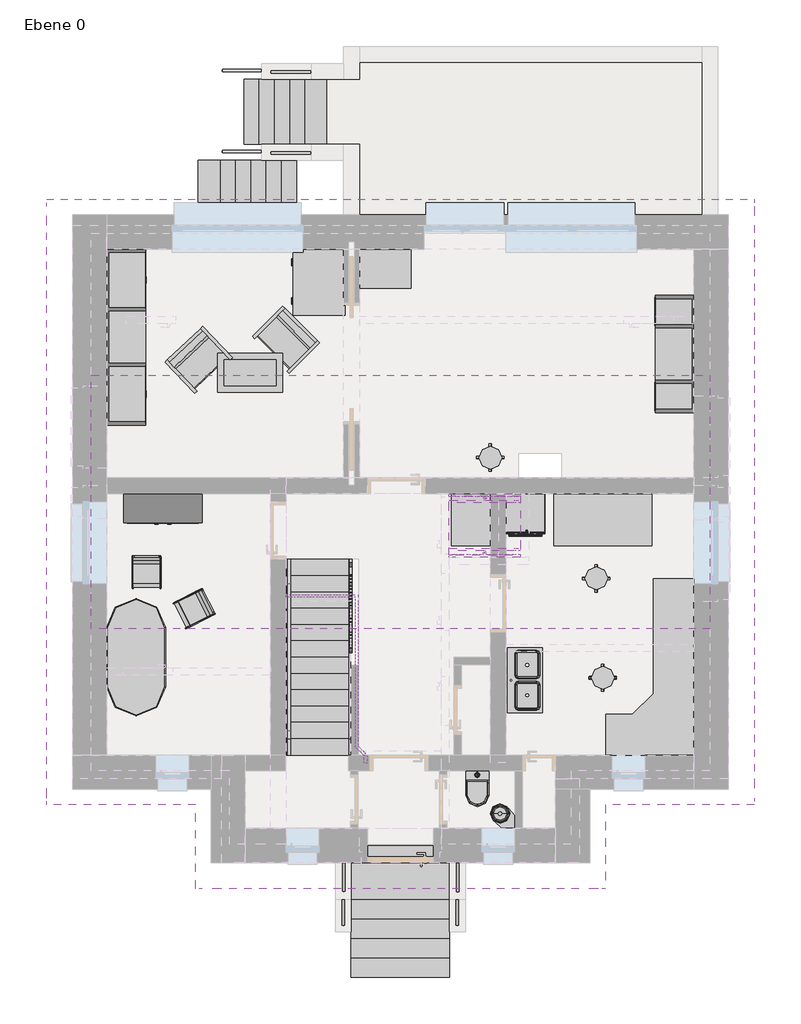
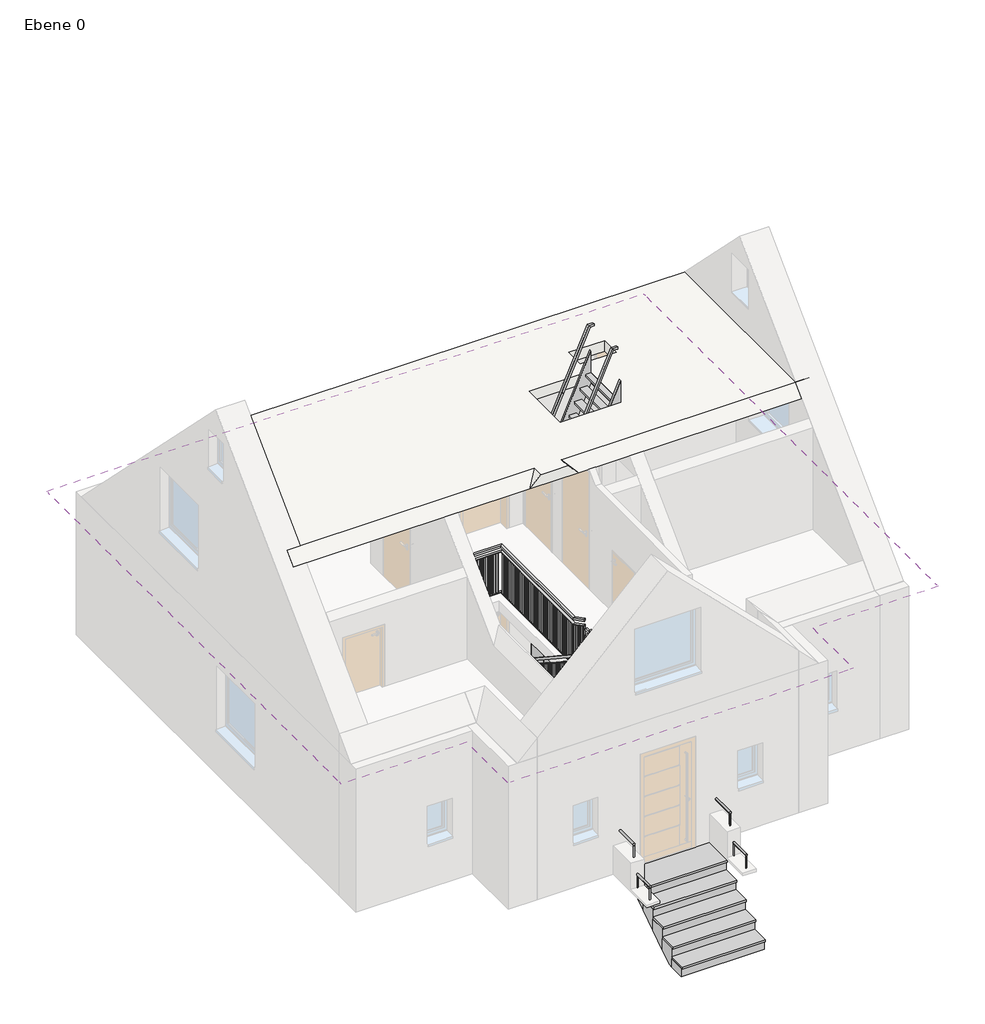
# One storey, part 3 of 3: 17 furniture elements, 16 railings, 5 stair flights, 4 members, 3 flow terminals, 2 proxies, 2 slabs, 1 roof.
"""IFC4 building model written with IfcOpenShell, lengths in millimetres."""

from ifc_helpers import new_model, si_unit, frame, origin, place, context, project, spatial, polyline, outline, extrude, faceted_brep, transform, mapped, element, save
from components import electrical_equipment_04802fdb, electrical_equipment_621d5f77, flow_terminal_1000_x_535_82328010, flow_terminal_35_x_55cm_6441f3d0, waschbecken_03_waschbecken_093a886d, furniture_1000_x_600_x_450_2671d195, furniture_1000_x_760_x_760_02e18f98, furniture_800_x_600_x_800_ba27f6a6, schrank_09_1200_x_450_x_2200_a26f84f2, schrank_12_1800_x_600_x_1800_5341ef42, schrank_12_2700_x_600_x_2100_568bd233, sofa_05_b_800_2b4523ea, stuhl_04_typ1_6c77dc19, tisch_08_oval_1800_x_900_glas_ae678d82, tisch_17_1500_x_800_x_750_a301e799, typ1_ea9e3636, typ1_24384e5f, railing_ba4ef4f0, railing_844731f6, railing_05958358, railing_5f183d00, railing_986e0a8e, railing_a572a345, railing_46543788, railing_ffa2e5ba, railing_02694adf, railing_c6eb6142, railing_c633e56d, railing_068a3bbe, handlauf_holz_37a11ede, handlauf_holz_fd729e07, handlauf_holz_bf88dba0, handlauf_holz_f6a84104, stair_flight_0ae1a87a, stair_flight_21483602

model = new_model("IFC4")

# Units and contexts
model_context = context("Model", 3, world=origin())
ifc_project = project(units=[si_unit("LENGTHUNIT", "METRE", prefix="MILLI")], contexts=[model_context])

# Site, building, storey
site = spatial("IfcSite", under=ifc_project)
building = spatial("IfcBuilding", under=site)
storey = spatial("IfcBuildingStorey", under=building, Name="Ebene 0", Elevation=1000.0)

# Proxies
placement = place(None, origin())
electrical_equipment_shape = electrical_equipment_04802fdb(model_context)
element("IfcBuildingElementProxy", 1, Name="Backofen-Herdplatte-Kombi : 850  x 597  x 597", ObjectType="Backofen-Herdplatte-Kombi : 850  x 597  x 597", at=placement, inside=storey, context=model_context, shape_type="MappedRepresentation", body=[
    mapped(electrical_equipment_shape, transform((4658.6733882, 5200.0, 1100.0), x_axis=(1.0, 0.0, 0.0), y_axis=(0.0, 1.0, 0.0), z_axis=(0.0, 0.0, 1.0))),
])
electrical_equipment_2_shape = electrical_equipment_621d5f77(model_context)
element("IfcBuildingElementProxy", 2, Name="Glas-Kochfläche-6fach eingefasst-Kante : 576  x 516", ObjectType="Glas-Kochfläche-6fach eingefasst-Kante : 576  x 516", at=placement, inside=storey, context=model_context, shape_type="MappedRepresentation", body=[
    mapped(electrical_equipment_2_shape, transform((4663.5, 5201.5, 1950.0), x_axis=(1.0, 0.0, 0.0), y_axis=(0.0, 1.0, 0.0), z_axis=(0.0, 0.0, 1.0))),
])

# Flow terminals
flow_terminal_1000_x_535_shape = flow_terminal_1000_x_535_82328010(model_context)
element("IfcFlowTerminal", 3, ObjectType="Spülbecken Küche-Doppelt : 1000 x 535", at=placement, inside=storey, context=model_context, shape_type="MappedRepresentation", body=[
    mapped(flow_terminal_1000_x_535_shape, transform((4655.5454011, 2622.4107594, 1800.0), x_axis=(0.0, 1.0, 0.0), y_axis=(-1.0, 0.0, 0.0), z_axis=(0.0, 0.0, 1.0))),
])
flow_terminal_35_x_55cm_shape = flow_terminal_35_x_55cm_6441f3d0(model_context)
element("IfcFlowTerminal", 4, ObjectType="WC AP-Druckspüler : 35 x 55cm", at=placement, inside=storey, context=model_context, shape_type="MappedRepresentation", body=[
    mapped(flow_terminal_35_x_55cm_shape, transform((3925.0, 1250.0, 1100.0), x_axis=(1.0, 0.0, 0.0), y_axis=(0.0, 1.0, 0.0), z_axis=(0.0, 0.0, 1.0))),
])
waschbecken_03_waschbecken_shape = waschbecken_03_waschbecken_093a886d(model_context)
element("IfcFlowTerminal", 5, ObjectType="Waschbecken 03 : Waschbecken", at=placement, inside=storey, context=model_context, shape_type="MappedRepresentation", body=[
    mapped(waschbecken_03_waschbecken_shape, transform((4500.0, 376.4966705, 1100.0), x_axis=(-0.9997802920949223, -0.02096109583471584, 0.0), y_axis=(0.02096109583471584, -0.9997802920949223, 0.0), z_axis=(0.0, 0.0, 1.0))),
])

# Furniture
furniture_1000_x_600_x_450_shape = furniture_1000_x_600_x_450_2671d195(model_context)
element("IfcFurniture", 6, ObjectType="Tisch-05 Glasausschnitt : 1000 x 600 x 450", at=placement, inside=storey, context=model_context, shape_type="MappedRepresentation", body=[
    mapped(furniture_1000_x_600_x_450_shape, transform((421.7342333, 7254.7889222, 1000.0), x_axis=(1.0, 0.0, 0.0), y_axis=(0.0, 1.0, 0.0), z_axis=(0.0, 0.0, 1.0))),
])
furniture_1000_x_760_x_760_shape = furniture_1000_x_760_x_760_02e18f98(model_context)
element("IfcFurniture", 7, ObjectType="Schreibtisch-06 : 1000 x 760 x 760", at=placement, inside=storey, context=model_context, shape_type="MappedRepresentation", body=[
    mapped(furniture_1000_x_760_x_760_shape, transform((1114.0, 9512.0, 1000.0), x_axis=(0.0, -1.0, 0.0), y_axis=(1.0, 0.0, 0.0), z_axis=(0.0, 0.0, 1.0))),
])
furniture_800_x_600_x_800_shape = furniture_800_x_600_x_800_ba27f6a6(model_context)
element("IfcFurniture", 8, ObjectType="Kommode-01 : 800 x 600 x 800", at=placement, inside=storey, context=model_context, shape_type="MappedRepresentation", body=[
    mapped(furniture_800_x_600_x_800_shape, transform((3725.0, 5100.0, 1000.0), x_axis=(0.0, -1.0, 0.0), y_axis=(1.0, 0.0, 0.0), z_axis=(0.0, 0.0, 1.0))),
])
element("IfcFurniture", 9, ObjectType="Kommode-01 : 800 x 600 x 800", at=placement, inside=storey, context=model_context, shape_type="MappedRepresentation", body=[
    mapped(furniture_800_x_600_x_800_shape, transform((2505.0, 8850.0, 1000.0), x_axis=(1.0, 0.0, 0.0), y_axis=(0.0, 1.0, 0.0), z_axis=(0.0, 0.0, 1.0))),
])
schrank_09_1200_x_450_x_2200_shape = schrank_09_1200_x_450_x_2200_a26f84f2(model_context)
element("IfcFurniture", 10, ObjectType="Schrank-09 : 1200 x 450 x 2200", at=placement, inside=storey, context=model_context, shape_type="MappedRepresentation", body=[
    mapped(schrank_09_1200_x_450_x_2200_shape, transform((-630.8067402, 5638.1629541, 1000.0), x_axis=(1.0, 0.0, 0.0), y_axis=(0.0, 1.0, 0.0), z_axis=(0.0, 0.0, 1.0))),
])
schrank_12_1800_x_600_x_1800_shape = schrank_12_1800_x_600_x_1800_5341ef42(model_context)
element("IfcFurniture", 11, ObjectType="Schrank-12 : 1800 x 600 x 1800", at=placement, inside=storey, context=model_context, shape_type="MappedRepresentation", body=[
    mapped(schrank_12_1800_x_600_x_1800_shape, transform((7356.4, 7640.0, 1000.0), x_axis=(0.0, -1.0, 0.0), y_axis=(1.0, 0.0, 0.0), z_axis=(0.0, 0.0, 1.0))),
])
schrank_12_2700_x_600_x_2100_shape = schrank_12_2700_x_600_x_2100_568bd233(model_context)
element("IfcFurniture", 12, ObjectType="Schrank-12 : 2700 x 600 x 2100", at=placement, inside=storey, context=model_context, shape_type="MappedRepresentation", body=[
    mapped(schrank_12_2700_x_600_x_2100_shape, transform((-1866.4, 7900.0, 1000.0), x_axis=(0.0, 1.0, 0.0), y_axis=(-1.0, 0.0, 0.0), z_axis=(0.0, 0.0, 1.0))),
])
sofa_05_b_800_shape = sofa_05_b_800_2b4523ea(model_context)
element("IfcFurniture", 13, ObjectType="Sofa-05 : B 800", at=placement, inside=storey, context=model_context, shape_type="MappedRepresentation", body=[
    mapped(sofa_05_b_800_shape, transform((-300.7139071, 7395.4558069, 1000.0), x_axis=(0.7265975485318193, 0.6870633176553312, 0.0), y_axis=(-0.6870633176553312, 0.7265975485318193, 0.0), z_axis=(0.0, 0.0, 1.0))),
])
element("IfcFurniture", 14, ObjectType="Sofa-05 : B 800", at=placement, inside=storey, context=model_context, shape_type="MappedRepresentation", body=[
    mapped(sofa_05_b_800_shape, transform((836.893994, 7805.7563155, 1000.0), x_axis=(0.7071067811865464, -0.7071067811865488, 0.0), y_axis=(0.7071067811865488, 0.7071067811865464, 0.0), z_axis=(0.0, 0.0, 1.0))),
])
stuhl_04_typ1_shape = stuhl_04_typ1_6c77dc19(model_context)
element("IfcFurniture", 15, ObjectType="Stuhl-04 : Typ1", at=placement, inside=storey, context=model_context, shape_type="MappedRepresentation", body=[
    mapped(stuhl_04_typ1_shape, transform((-797.8947, 4524.7408621, 1000.0), x_axis=(1.0, 0.0, 0.0), y_axis=(0.0, 1.0, 0.0), z_axis=(0.0, 0.0, 1.0))),
])
element("IfcFurniture", 16, ObjectType="Stuhl-04 : Typ1", at=placement, inside=storey, context=model_context, shape_type="MappedRepresentation", body=[
    mapped(stuhl_04_typ1_shape, transform((-57.5438469, 3524.477641, 1000.0), x_axis=(0.4470333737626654, -0.8945172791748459, 0.0), y_axis=(0.8945172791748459, 0.4470333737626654, 0.0), z_axis=(0.0, 0.0, 1.0))),
])
tisch_08_oval_1800_x_900_glas_shape = tisch_08_oval_1800_x_900_glas_ae678d82(model_context)
element("IfcFurniture", 17, ObjectType="Tisch-08 oval : 1800 x 900 Glas", at=placement, inside=storey, context=model_context, shape_type="MappedRepresentation", body=[
    mapped(tisch_08_oval_1800_x_900_glas_shape, transform((-1668.0983607, 3391.8196721, 1000.0), x_axis=(0.0, 1.0, 0.0), y_axis=(-1.0, 0.0, 0.0), z_axis=(0.0, 0.0, 1.0))),
])
tisch_17_1500_x_800_x_750_shape = tisch_17_1500_x_800_x_750_a301e799(model_context)
element("IfcFurniture", 18, ObjectType="Tisch-17 : 1500 x 800 x 750", at=placement, inside=storey, context=model_context, shape_type="MappedRepresentation", body=[
    mapped(tisch_17_1500_x_800_x_750_shape, transform((5834.682456, 5060.8700593, 1100.0), x_axis=(1.0, 0.0, 0.0), y_axis=(0.0, 1.0, 0.0), z_axis=(0.0, 0.0, 1.0))),
])
typ1_shape = typ1_ea9e3636(model_context)
element("IfcFurniture", 19, ObjectType="Küchenzeile-05 Kombination : Typ1", at=placement, inside=storey, context=model_context, shape_type="MappedRepresentation", body=[
    mapped(typ1_shape, transform((8240.9255592, 3558.8064056, 1100.0), x_axis=(0.0, -1.0, 0.0), y_axis=(1.0, 0.0, 0.0), z_axis=(0.0, 0.0, 1.0))),
])
typ1_2_shape = typ1_24384e5f(model_context)
element("IfcFurniture", 20, ObjectType="Hocker-04 : Typ1", at=placement, inside=storey, context=model_context, shape_type="MappedRepresentation", body=[
    mapped(typ1_2_shape, transform((5750.0, 4200.0, 1100.0), x_axis=(1.0, 0.0, 0.0), y_axis=(0.0, 1.0, 0.0), z_axis=(0.0, 0.0, 1.0))),
])
element("IfcFurniture", 21, ObjectType="Hocker-04 : Typ1", at=placement, inside=storey, context=model_context, shape_type="MappedRepresentation", body=[
    mapped(typ1_2_shape, transform((5850.0, 2675.0, 1100.0), x_axis=(1.0, 0.0, 0.0), y_axis=(0.0, 1.0, 0.0), z_axis=(0.0, 0.0, 1.0))),
])
element("IfcFurniture", 22, ObjectType="Hocker-04 : Typ1", at=placement, inside=storey, context=model_context, shape_type="MappedRepresentation", body=[
    mapped(typ1_2_shape, transform((4125.0, 6050.868232, 1000.0), x_axis=(1.0, 0.0, 0.0), y_axis=(0.0, 1.0, 0.0), z_axis=(0.0, 0.0, 1.0))),
])

# Members
element("IfcMember", 23, ObjectType="Holz 40 x 260", at=placement, inside=storey, context=model_context, shape_type="SweptSolid", body=[
    extrude(outline(polyline([(4490.0, -1001.5849467), (4490.0, -1200.0), (4320.9042035, -1200.0), (1490.0, 875.9964159), (1490.0, 1198.4150533), (4490.0, -1001.5849467)])), frame((1980.0, 0.0, 0.0), z_axis=(1.0, 0.0, 0.0), x_axis=(0.0, 1.0, 0.0)), (0.0, 0.0, 1.0), 40.0),
])
element("IfcMember", 24, ObjectType="Holz 40 x 260", at=placement, inside=storey, context=model_context, shape_type="SweptSolid", body=[
    extrude(outline(polyline([(4490.0, -1001.5849467), (4490.0, -1200.0), (4320.9042035, -1200.0), (1490.0, 875.9964159), (1490.0, 1198.4150533), (4490.0, -1001.5849467)])), frame((940.0, 0.0, 0.0), z_axis=(1.0, 0.0, 0.0), x_axis=(0.0, 1.0, 0.0)), (0.0, 0.0, 1.0), 40.0),
])
element("IfcMember", 25, ObjectType="Holz 40 x 260", at=placement, inside=storey, context=model_context, shape_type="SweptSolid", body=[
    extrude(outline(polyline([(4163.2481927, 3490.0), (3750.0, 3490.0), (3750.0, 3592.2260011), (6017.6681792, 4590.0), (6663.2481927, 4590.0), (4163.2481927, 3490.0)])), frame((0.0, 5460.0, 0.0), z_axis=(0.0, 1.0, 0.0), x_axis=(0.0, 0.0, 1.0)), (0.0, 0.0, 1.0), 40.0),
])
element("IfcMember", 26, ObjectType="Holz 40 x 260", at=placement, inside=storey, context=model_context, shape_type="SweptSolid", body=[
    extrude(outline(polyline([(4163.2481927, 3490.0), (3750.0, 3490.0), (3750.0, 3592.2260011), (6017.6681792, 4590.0), (6663.2481927, 4590.0), (4163.2481927, 3490.0)])), frame((0.0, 4520.0, 0.0), z_axis=(0.0, 1.0, 0.0), x_axis=(0.0, 0.0, 1.0)), (0.0, 0.0, 1.0), 40.0),
])

# Railings
railing_shape = railing_ba4ef4f0(model_context)
element("IfcRailing", 27, ObjectType="Vertikale Stäbe mit Handlauf", at=placement, inside=storey, context=model_context, shape_type="MappedRepresentation", body=[
    mapped(railing_shape, transform((0.0, 0.0, 0.0), x_axis=(1.0, 0.0, 0.0), y_axis=(0.0, 1.0, 0.0), z_axis=(0.0, 0.0, 1.0))),
])
railing_2_shape = railing_844731f6(model_context)
element("IfcRailing", 28, ObjectType="Vertikale Stäbe", at=placement, inside=storey, context=model_context, shape_type="MappedRepresentation", body=[
    mapped(railing_2_shape, transform((0.0, 0.0, 0.0), x_axis=(1.0, 0.0, 0.0), y_axis=(0.0, 1.0, 0.0), z_axis=(0.0, 0.0, 1.0))),
])
railing_3_shape = railing_05958358(model_context)
element("IfcRailing", 29, ObjectType="Geländer-1", at=placement, inside=storey, context=model_context, shape_type="MappedRepresentation", body=[
    mapped(railing_3_shape, transform((0.0, 0.0, 0.0), x_axis=(1.0, 0.0, 0.0), y_axis=(0.0, 1.0, 0.0), z_axis=(0.0, 0.0, 1.0))),
])
railing_4_shape = railing_5f183d00(model_context)
element("IfcRailing", 30, ObjectType="Geländer-1", at=placement, inside=storey, context=model_context, shape_type="MappedRepresentation", body=[
    mapped(railing_4_shape, transform((0.0, 0.0, 0.0), x_axis=(1.0, 0.0, 0.0), y_axis=(0.0, 1.0, 0.0), z_axis=(0.0, 0.0, 1.0))),
])
railing_5_shape = railing_986e0a8e(model_context)
element("IfcRailing", 31, ObjectType="Geländer-1", at=placement, inside=storey, context=model_context, shape_type="MappedRepresentation", body=[
    mapped(railing_5_shape, transform((0.0, 0.0, 0.0), x_axis=(1.0, 0.0, 0.0), y_axis=(0.0, 1.0, 0.0), z_axis=(0.0, 0.0, 1.0))),
])
railing_6_shape = railing_a572a345(model_context)
element("IfcRailing", 32, ObjectType="Geländer-1", at=placement, inside=storey, context=model_context, shape_type="MappedRepresentation", body=[
    mapped(railing_6_shape, transform((0.0, 0.0, 0.0), x_axis=(1.0, 0.0, 0.0), y_axis=(0.0, 1.0, 0.0), z_axis=(0.0, 0.0, 1.0))),
])
railing_7_shape = railing_46543788(model_context)
element("IfcRailing", 33, ObjectType="Vertikale Stäbe mit Handlauf", at=placement, inside=storey, context=model_context, shape_type="MappedRepresentation", body=[
    mapped(railing_7_shape, transform((0.0, 0.0, 0.0), x_axis=(1.0, 0.0, 0.0), y_axis=(0.0, 1.0, 0.0), z_axis=(0.0, 0.0, 1.0))),
])
railing_8_shape = railing_ffa2e5ba(model_context)
element("IfcRailing", 34, ObjectType="Vertikale Stäbe mit Handlauf", at=placement, inside=storey, context=model_context, shape_type="MappedRepresentation", body=[
    mapped(railing_8_shape, transform((0.0, 0.0, 0.0), x_axis=(1.0, 0.0, 0.0), y_axis=(0.0, 1.0, 0.0), z_axis=(0.0, 0.0, 1.0))),
])
railing_9_shape = railing_02694adf(model_context)
element("IfcRailing", 35, ObjectType="Geländer-1", at=placement, inside=storey, context=model_context, shape_type="MappedRepresentation", body=[
    mapped(railing_9_shape, transform((0.0, 0.0, 0.0), x_axis=(1.0, 0.0, 0.0), y_axis=(0.0, 1.0, 0.0), z_axis=(0.0, 0.0, 1.0))),
])
railing_10_shape = railing_c6eb6142(model_context)
element("IfcRailing", 36, ObjectType="Geländer-1", at=placement, inside=storey, context=model_context, shape_type="MappedRepresentation", body=[
    mapped(railing_10_shape, transform((0.0, 0.0, 0.0), x_axis=(1.0, 0.0, 0.0), y_axis=(0.0, 1.0, 0.0), z_axis=(0.0, 0.0, 1.0))),
])
railing_11_shape = railing_c633e56d(model_context)
element("IfcRailing", 37, ObjectType="Geländer-1", at=placement, inside=storey, context=model_context, shape_type="MappedRepresentation", body=[
    mapped(railing_11_shape, transform((0.0, 0.0, 0.0), x_axis=(1.0, 0.0, 0.0), y_axis=(0.0, 1.0, 0.0), z_axis=(0.0, 0.0, 1.0))),
])
railing_12_shape = railing_068a3bbe(model_context)
element("IfcRailing", 38, ObjectType="Geländer-1", at=placement, inside=storey, context=model_context, shape_type="MappedRepresentation", body=[
    mapped(railing_12_shape, transform((0.0, 0.0, 0.0), x_axis=(1.0, 0.0, 0.0), y_axis=(0.0, 1.0, 0.0), z_axis=(0.0, 0.0, 1.0))),
])
handlauf_holz_shape = handlauf_holz_37a11ede(model_context)
element("IfcRailing", 39, ObjectType="Handlauf Holz", at=placement, inside=storey, context=model_context, shape_type="MappedRepresentation", body=[
    mapped(handlauf_holz_shape, transform((0.0, 0.0, 0.0), x_axis=(1.0, 0.0, 0.0), y_axis=(0.0, 1.0, 0.0), z_axis=(0.0, 0.0, 1.0))),
])
handlauf_holz_2_shape = handlauf_holz_fd729e07(model_context)
element("IfcRailing", 40, ObjectType="Handlauf Holz", at=placement, inside=storey, context=model_context, shape_type="MappedRepresentation", body=[
    mapped(handlauf_holz_2_shape, transform((0.0, 0.0, 0.0), x_axis=(1.0, 0.0, 0.0), y_axis=(0.0, 1.0, 0.0), z_axis=(0.0, 0.0, 1.0))),
])
handlauf_holz_3_shape = handlauf_holz_bf88dba0(model_context)
element("IfcRailing", 41, ObjectType="Handlauf Holz", at=placement, inside=storey, context=model_context, shape_type="MappedRepresentation", body=[
    mapped(handlauf_holz_3_shape, transform((0.0, 0.0, 0.0), x_axis=(1.0, 0.0, 0.0), y_axis=(0.0, 1.0, 0.0), z_axis=(0.0, 0.0, 1.0))),
])
handlauf_holz_4_shape = handlauf_holz_f6a84104(model_context)
element("IfcRailing", 42, ObjectType="Handlauf Holz", at=placement, inside=storey, context=model_context, shape_type="MappedRepresentation", body=[
    mapped(handlauf_holz_4_shape, transform((0.0, 0.0, 0.0), x_axis=(1.0, 0.0, 0.0), y_axis=(0.0, 1.0, 0.0), z_axis=(0.0, 0.0, 1.0))),
])

# Roof
element("IfcRoof", 43, ObjectType="Ziegeldach 360", at=placement, inside=storey, context=model_context, shape_type="Brep", body=[
    faceted_brep([(3.0508653, 1128.0508653, 3753.0508653), (-2685.0, 1128.0508653, 3753.0508653), (-2685.0, 5370.0, 7995.0), (8175.0, 5370.0, 7995.0), (8175.0, 1128.0508653, 3753.0508653), (5486.9491347, 1128.0508653, 3753.0508653), (3190.0, 3425.0, 6050.0), (2990.0, 3625.0, 6250.0), (2745.0, 3870.0, 6495.0), (2500.0, 3625.0, 6250.0), (2300.0, 3425.0, 6050.0), (960.0, 2085.0, 4710.0), (750.0, 1875.0, 4500.0), (2745.0, 365.0, 6495.0), (2745.0, -160.0, 6495.0), (2745.0, -560.0, 6495.0), (3.0508653, -560.0, 3753.0508653), (5486.9491347, -560.0, 3753.0508653), (-2685.0, 9611.9491347, 3753.0508653), (8175.0, 9611.9491347, 3753.0508653), (5215.0, 5751.2341615, 7613.7658385), (5215.0, 6111.2341615, 7253.7658385), (4565.0, 6111.2341615, 7253.7658385), (4565.0, 5751.2341615, 7613.7658385), (-400.0, 725.0, 3859.1168825), (2745.0, 3870.0, 7004.1168825), (5890.0, 725.0, 3859.1168825), (8175.0, 725.0, 3859.1168825), (8175.0, 5370.0, 8504.1168825), (-2685.0, 5370.0, 8504.1168825), (-2685.0, 725.0, 3859.1168825), (-400.0, -560.0, 3859.1168825), (2745.0, -560.0, 7004.1168825), (5890.0, -560.0, 3859.1168825), (8175.0, 10015.0, 3859.1168825), (-2685.0, 10015.0, 3859.1168825), (5215.0, 6111.2341615, 7762.8827209), (5215.0, 5751.2341615, 8122.8827209), (4565.0, 5751.2341615, 8122.8827209), (4565.0, 6111.2341615, 7762.8827209), (-293.9339828, -560.0, 3753.0508653), (-293.9339828, 831.0660172, 3753.0508653), (-2685.0, 831.0660172, 3753.0508653), (8175.0, 831.0660172, 3753.0508653), (5783.9339828, 831.0660172, 3753.0508653), (5783.9339828, -560.0, 3753.0508653), (-2685.0, 9908.9339828, 3753.0508653), (8175.0, 9908.9339828, 3753.0508653)], [[[0, 1, 2, 3, 4, 5, 6, 7, 8, 9, 10, 11, 12]], [[0, 12, 11, 10, 9, 8, 13, 14, 15, 16]], [[8, 7, 6, 5, 17, 15, 14, 13]], [[3, 2, 18, 19], [20, 21, 22, 23]], [[24, 25, 26, 27, 28, 29, 30]], [[25, 24, 31, 32]], [[26, 25, 32, 33]], [[29, 28, 34, 35], [36, 37, 38, 39]], [[1, 0, 16, 40, 41, 42]], [[5, 4, 43, 44, 45, 17]], [[19, 18, 46, 47]], [[2, 1, 42, 30, 29, 35, 46, 18]], [[16, 15, 17, 45, 33, 32, 31, 40]], [[4, 3, 19, 47, 34, 28, 27, 43]], [[24, 30, 42, 41]], [[31, 24, 41, 40]], [[26, 33, 45, 44]], [[27, 26, 44, 43]], [[35, 34, 47, 46]], [[20, 37, 36, 21]], [[21, 36, 39, 22]], [[22, 39, 38, 23]], [[37, 20, 23, 38]]]),
])

# Slabs
element("IfcSlab", 44, ObjectType="STB 200", at=placement, inside=storey, context=model_context, shape_type="Brep", body=[
    faceted_brep([(1995.0, 12235.0, 800.0), (7375.0, 12235.0, 800.0), (7495.0, 12235.0, 800.0), (7495.0, 9775.0, 800.0), (7495.0, 9615.0, 800.0), (1995.0, 9615.0, 800.0), (1995.0, 9775.0, 800.0), (1995.0, 10735.0, 800.0), (1875.0, 10735.0, 800.0), (1620.0, 10735.0, 800.0), (1620.0, 11855.0, 800.0), (1995.0, 11855.0, 800.0), (7495.0, 12235.0, 1000.0), (7375.0, 12235.0, 1000.0), (1995.0, 12235.0, 1000.0), (1995.0, 11855.0, 1000.0), (1875.0, 11855.0, 1000.0), (1620.0, 11855.0, 1000.0), (1620.0, 10855.0, 1000.0), (1620.0, 10735.0, 1000.0), (1875.0, 10735.0, 1000.0), (1995.0, 10735.0, 1000.0), (1995.0, 9775.0, 1000.0), (1995.0, 9615.0, 1000.0), (7495.0, 9615.0, 1000.0), (7495.0, 9775.0, 1000.0), (1620.0, 11855.0, 960.0), (1620.0, 10855.0, 960.0), (1620.0, 10845.0, 960.0), (1620.0, 10845.0, 850.0), (1620.0, 11855.0, 850.0), (1630.0, 11855.0, 850.0), (1630.0, 11855.0, 960.0), (1630.0, 10845.0, 960.0), (1630.0, 10845.0, 850.0)], [[[0, 1, 2, 3, 4, 5, 6, 7, 8, 9, 10, 11]], [[12, 13, 14, 15, 16, 17, 18, 19, 20, 21, 22, 23, 24, 25]], [[2, 1, 0, 14, 13, 12]], [[4, 3, 2, 12, 25, 24]], [[5, 4, 24, 23]], [[7, 6, 5, 23, 22, 21]], [[9, 8, 7, 21, 20, 19]], [[10, 9, 19, 18, 17, 26, 27, 28, 29, 30]], [[11, 10, 30, 31, 32, 26, 17, 16, 15]], [[0, 11, 15, 14]], [[32, 33, 28, 27, 26]], [[29, 34, 31, 30]], [[33, 34, 29, 28]], [[34, 33, 32, 31]]]),
])
element("IfcSlab", 45, ObjectType="STB 200", at=placement, inside=storey, context=model_context, shape_type="Brep", body=[
    faceted_brep([(7490.0, 7315.0, 6050.0), (7490.0, 3425.0, 6050.0), (3190.0, 3425.0, 6050.0), (2300.0, 3425.0, 6050.0), (-1760.0, 3425.0, 6050.0), (-2000.0, 3425.0, 6050.0), (-2000.0, 7315.0, 6050.0), (-1760.0, 7315.0, 6050.0), (3490.0, 4520.0, 6050.0), (4590.0, 4520.0, 6050.0), (4590.0, 5500.0, 6050.0), (3490.0, 5500.0, 6050.0), (5215.0, 5751.2341615, 6050.0), (5215.0, 6111.2341615, 6050.0), (4565.0, 6111.2341615, 6050.0), (4565.0, 5751.2341615, 6050.0), (-2000.0, 7115.0, 6250.0), (-2000.0, 3625.0, 6250.0), (-1760.0, 3625.0, 6250.0), (2500.0, 3625.0, 6250.0), (2500.0, 3425.0, 6250.0), (2990.0, 3425.0, 6250.0), (2990.0, 3625.0, 6250.0), (7490.0, 3625.0, 6250.0), (7490.0, 7115.0, 6250.0), (-1760.0, 7115.0, 6250.0), (4590.0, 4520.0, 6250.0), (3490.0, 4520.0, 6250.0), (3490.0, 5500.0, 6250.0), (4590.0, 5500.0, 6250.0), (5215.0, 6111.2341615, 6250.0), (5215.0, 5751.2341615, 6250.0), (4565.0, 5751.2341615, 6250.0), (4565.0, 6111.2341615, 6250.0)], [[[0, 1, 2, 3, 4, 5, 6, 7], [8, 9, 10, 11], [12, 13, 14, 15]], [[16, 17, 18, 19, 20, 21, 22, 23, 24, 25], [26, 27, 28, 29], [30, 31, 32, 33]], [[1, 0, 24, 23]], [[3, 2, 21, 20]], [[6, 5, 17, 16]], [[3, 19, 18, 17, 5, 4]], [[22, 2, 1, 23]], [[19, 3, 20]], [[2, 22, 21]], [[0, 7, 6, 16, 25, 24]], [[9, 8, 27, 26]], [[10, 9, 26, 29]], [[11, 10, 29, 28]], [[8, 11, 28, 27]], [[12, 31, 30, 13]], [[13, 30, 33, 14]], [[14, 33, 32, 15]], [[31, 12, 15, 32]]]),
])

# Stair flights
element("IfcStairFlight", 46, ObjectType="Naturstein - Auftritt 40 / Trittüberstand 30", at=placement, inside=storey, context=model_context, shape_type="SolidModel", body=[
    faceted_brep([(610.0, 11855.0, 160.0), (375.0, 11855.0, 160.0), (375.0, 10855.0, 160.0), (610.0, 10855.0, 160.0), (610.0, 11855.0, 0.0), (375.0, 11855.0, 0.0), (375.0, 10855.0, 0.0), (610.0, 10855.0, 0.0), (845.0, 11855.0, 360.0), (610.0, 11855.0, 360.0), (610.0, 10855.0, 360.0), (845.0, 10855.0, 360.0), (845.0, 11855.0, 123.6366517), (699.7269342, 11855.0, 0.0), (699.7269342, 10855.0, 0.0), (845.0, 10855.0, 123.6366517), (1080.0, 11855.0, 560.0), (845.0, 11855.0, 560.0), (845.0, 10855.0, 560.0), (1080.0, 10855.0, 560.0), (1080.0, 11855.0, 323.6366517), (1080.0, 10855.0, 323.6366517), (1315.0, 11855.0, 760.0), (1080.0, 11855.0, 760.0), (1080.0, 10855.0, 760.0), (1315.0, 10855.0, 760.0), (1315.0, 11855.0, 523.6366517), (1315.0, 10855.0, 523.6366517), (1315.0, 11855.0, 960.0), (1315.0, 10855.0, 960.0), (1620.0, 10855.0, 960.0), (1620.0, 11855.0, 960.0), (1620.0, 11855.0, 860.0), (1520.0, 11855.0, 860.0), (1520.0, 11855.0, 698.1047368), (1520.0, 10855.0, 698.1047368), (1520.0, 10855.0, 860.0), (1620.0, 10855.0, 860.0)], [[[0, 1, 2, 3]], [[1, 0, 4, 5]], [[2, 1, 5, 6]], [[3, 2, 6, 7]], [[8, 9, 10, 11]], [[4, 0, 9, 8, 12, 13]], [[0, 3, 10, 9]], [[3, 7, 14, 15, 11, 10]], [[16, 17, 18, 19]], [[17, 16, 20, 12, 8]], [[8, 11, 18, 17]], [[19, 18, 11, 15, 21]], [[22, 23, 24, 25]], [[23, 22, 26, 20, 16]], [[16, 19, 24, 23]], [[25, 24, 19, 21, 27]], [[28, 29, 30, 31]], [[28, 31, 32, 33, 34, 26, 22]], [[22, 25, 29, 28]], [[30, 29, 25, 27, 35, 36, 37]], [[35, 34, 33, 36]], [[5, 4, 13, 14, 7, 6]], [[14, 13, 12, 20, 26, 34, 35, 27, 21, 15]], [[37, 36, 33, 32]], [[37, 32, 31, 30]]]),
    extrude(outline(polyline([(610.0, 11855.0), (610.0, 10855.0), (345.0, 10855.0), (345.0, 11855.0), (610.0, 11855.0)])), frame((0.0, 0.0, 160.0), z_axis=(0.0, 0.0, 1.0), x_axis=(1.0, 0.0, 0.0)), (0.0, 0.0, 1.0), 40.0),
    extrude(outline(polyline([(845.0, 11855.0), (845.0, 10855.0), (580.0, 10855.0), (580.0, 11855.0), (845.0, 11855.0)])), frame((0.0, 0.0, 360.0), z_axis=(0.0, 0.0, 1.0), x_axis=(1.0, 0.0, 0.0)), (0.0, 0.0, 1.0), 40.0),
    extrude(outline(polyline([(1080.0, 11855.0), (1080.0, 10855.0), (815.0, 10855.0), (815.0, 11855.0), (1080.0, 11855.0)])), frame((0.0, 0.0, 560.0), z_axis=(0.0, 0.0, 1.0), x_axis=(1.0, 0.0, 0.0)), (0.0, 0.0, 1.0), 40.0),
    extrude(outline(polyline([(1315.0, 11855.0), (1315.0, 10855.0), (1050.0, 10855.0), (1050.0, 11855.0), (1315.0, 11855.0)])), frame((0.0, 0.0, 760.0), z_axis=(0.0, 0.0, 1.0), x_axis=(1.0, 0.0, 0.0)), (0.0, 0.0, 1.0), 40.0),
    extrude(outline(polyline([(1620.0, 11855.0), (1620.0, 10855.0), (1285.0, 10855.0), (1285.0, 11855.0), (1620.0, 11855.0)])), frame((0.0, 0.0, 960.0), z_axis=(0.0, 0.0, 1.0), x_axis=(1.0, 0.0, 0.0)), (0.0, 0.0, 1.0), 40.0),
])
element("IfcStairFlight", 47, ObjectType="Naturstein - Auftritt 40 / Trittüberstand 30", at=placement, inside=storey, context=model_context, shape_type="SolidModel", body=[
    faceted_brep([(885.0, 9615.0, -1040.0), (1120.0, 9615.0, -1040.0), (1120.0, 10615.0, -1040.0), (885.0, 10615.0, -1040.0), (885.0, 9615.0, -1200.0), (1120.0, 9615.0, -1200.0), (1120.0, 10615.0, -1200.0), (885.0, 10615.0, -1200.0), (650.0, 9615.0, -840.0), (885.0, 9615.0, -840.0), (885.0, 10615.0, -840.0), (650.0, 10615.0, -840.0), (650.0, 9615.0, -1076.3633483), (795.2730658, 9615.0, -1200.0), (795.2730658, 10615.0, -1200.0), (650.0, 10615.0, -1076.3633483), (415.0, 9615.0, -640.0), (650.0, 9615.0, -640.0), (650.0, 10615.0, -640.0), (415.0, 10615.0, -640.0), (415.0, 9615.0, -876.3633483), (415.0, 10615.0, -876.3633483), (180.0, 9615.0, -440.0), (415.0, 9615.0, -440.0), (415.0, 10615.0, -440.0), (180.0, 10615.0, -440.0), (180.0, 9615.0, -676.3633483), (180.0, 10615.0, -676.3633483), (-55.0, 9615.0, -476.3633483), (-260.0, 9615.0, -301.8952632), (-260.0, 10615.0, -301.8952632), (-55.0, 10615.0, -476.3633483), (-360.0, 10615.0, -140.0), (-260.0, 10615.0, -140.0), (-260.0, 9615.0, -140.0), (-360.0, 9615.0, -140.0), (-360.0, 9615.0, -40.0), (-360.0, 10615.0, -40.0), (-55.0, 9615.0, -240.0), (180.0, 9615.0, -240.0), (180.0, 10615.0, -240.0), (-55.0, 10615.0, -240.0), (-55.0, 9615.0, -40.0), (-55.0, 10615.0, -40.0)], [[[0, 1, 2, 3]], [[1, 0, 4, 5]], [[2, 1, 5, 6]], [[3, 2, 6, 7]], [[8, 9, 10, 11]], [[4, 0, 9, 8, 12, 13]], [[0, 3, 10, 9]], [[3, 7, 14, 15, 11, 10]], [[16, 17, 18, 19]], [[17, 16, 20, 12, 8]], [[8, 11, 18, 17]], [[19, 18, 11, 15, 21]], [[22, 23, 24, 25]], [[23, 22, 26, 20, 16]], [[16, 19, 24, 23]], [[25, 24, 19, 21, 27]], [[5, 4, 13, 14, 7, 6]], [[14, 13, 12, 20, 26, 28, 29, 30, 31, 27, 21, 15]], [[32, 33, 34, 35]], [[32, 35, 36, 37]], [[38, 39, 40, 41]], [[39, 38, 28, 26, 22]], [[22, 25, 40, 39]], [[41, 40, 25, 27, 31]], [[42, 43, 37, 36]], [[42, 36, 35, 34, 29, 28, 38]], [[38, 41, 43, 42]], [[37, 43, 41, 31, 30, 33, 32]], [[30, 29, 34, 33]]]),
    extrude(outline(polyline([(885.0, 9615.0), (885.0, 10615.0), (1150.0, 10615.0), (1150.0, 9615.0), (885.0, 9615.0)])), frame((0.0, 0.0, -1040.0), z_axis=(0.0, 0.0, 1.0), x_axis=(1.0, 0.0, 0.0)), (0.0, 0.0, 1.0), 40.0),
    extrude(outline(polyline([(650.0, 9615.0), (650.0, 10615.0), (915.0, 10615.0), (915.0, 9615.0), (650.0, 9615.0)])), frame((0.0, 0.0, -840.0), z_axis=(0.0, 0.0, 1.0), x_axis=(1.0, 0.0, 0.0)), (0.0, 0.0, 1.0), 40.0),
    extrude(outline(polyline([(415.0, 9615.0), (415.0, 10615.0), (680.0, 10615.0), (680.0, 9615.0), (415.0, 9615.0)])), frame((0.0, 0.0, -640.0), z_axis=(0.0, 0.0, 1.0), x_axis=(1.0, 0.0, 0.0)), (0.0, 0.0, 1.0), 40.0),
    extrude(outline(polyline([(180.0, 9615.0), (180.0, 10615.0), (445.0, 10615.0), (445.0, 9615.0), (180.0, 9615.0)])), frame((0.0, 0.0, -440.0), z_axis=(0.0, 0.0, 1.0), x_axis=(1.0, 0.0, 0.0)), (0.0, 0.0, 1.0), 40.0),
    extrude(outline(polyline([(-55.0, 9615.0), (-55.0, 10615.0), (210.0, 10615.0), (210.0, 9615.0), (-55.0, 9615.0)])), frame((0.0, 0.0, -240.0), z_axis=(0.0, 0.0, 1.0), x_axis=(1.0, 0.0, 0.0)), (0.0, 0.0, 1.0), 40.0),
    extrude(outline(polyline([(-360.0, 9615.0), (-360.0, 10615.0), (-25.0, 10615.0), (-25.0, 9615.0), (-360.0, 9615.0)])), frame((0.0, 0.0, -40.0), z_axis=(0.0, 0.0, 1.0), x_axis=(1.0, 0.0, 0.0)), (0.0, 0.0, 1.0), 40.0),
])
element("IfcStairFlight", 48, ObjectType="Naturstein - Auftritt 40 / Trittüberstand 30", at=placement, inside=storey, context=model_context, shape_type="SolidModel", body=[
    faceted_brep([(1990.0, -1590.0, 160.0), (1990.0, -1890.0, 160.0), (3500.0, -1890.0, 160.0), (3500.0, -1590.0, 160.0), (1990.0, -1590.0, 0.0), (1990.0, -1890.0, 0.0), (3500.0, -1890.0, 0.0), (3500.0, -1590.0, 0.0), (1990.0, -1290.0, 360.0), (1990.0, -1590.0, 360.0), (3500.0, -1590.0, 360.0), (3500.0, -1290.0, 360.0), (1990.0, -1290.0, 143.6669235), (1990.0, -1505.5003852, 0.0), (3500.0, -1505.5003852, 0.0), (3500.0, -1290.0, 143.6669235), (1990.0, -990.0, 560.0), (1990.0, -1290.0, 560.0), (3500.0, -1290.0, 560.0), (3500.0, -990.0, 560.0), (1990.0, -990.0, 343.6669235), (3500.0, -990.0, 343.6669235), (1990.0, -335.5003852, 780.0), (3500.0, -335.5003852, 780.0), (3500.0, -690.0, 543.6669235), (1990.0, -690.0, 543.6669235), (3500.0, 100.0, 860.0), (3500.0, 0.0, 860.0), (1990.0, 0.0, 860.0), (1990.0, 100.0, 860.0), (1990.0, 100.0, 960.0), (3500.0, 100.0, 960.0), (1990.0, 0.0, 780.0), (3500.0, 0.0, 780.0), (1990.0, -690.0, 760.0), (1990.0, -990.0, 760.0), (3500.0, -990.0, 760.0), (3500.0, -690.0, 760.0), (1990.0, -690.0, 960.0), (3500.0, -690.0, 960.0)], [[[0, 1, 2, 3]], [[1, 0, 4, 5]], [[2, 1, 5, 6]], [[3, 2, 6, 7]], [[8, 9, 10, 11]], [[4, 0, 9, 8, 12, 13]], [[0, 3, 10, 9]], [[3, 7, 14, 15, 11, 10]], [[16, 17, 18, 19]], [[17, 16, 20, 12, 8]], [[8, 11, 18, 17]], [[19, 18, 11, 15, 21]], [[5, 4, 13, 14, 7, 6]], [[22, 23, 24, 21, 15, 14, 13, 12, 20, 25]], [[26, 27, 28, 29]], [[26, 29, 30, 31]], [[23, 22, 32, 33]], [[34, 35, 36, 37]], [[35, 34, 25, 20, 16]], [[16, 19, 36, 35]], [[37, 36, 19, 21, 24]], [[38, 39, 31, 30]], [[34, 38, 30, 29, 28, 32, 22, 25]], [[34, 37, 39, 38]], [[31, 39, 37, 24, 23, 33, 27, 26]], [[33, 32, 28, 27]]]),
    extrude(outline(polyline([(1990.0, -1590.0), (3500.0, -1590.0), (3500.0, -1920.0), (1990.0, -1920.0), (1990.0, -1590.0)])), frame((0.0, 0.0, 160.0), z_axis=(0.0, 0.0, 1.0), x_axis=(1.0, 0.0, 0.0)), (0.0, 0.0, 1.0), 40.0),
    extrude(outline(polyline([(1990.0, -1290.0), (3500.0, -1290.0), (3500.0, -1620.0), (1990.0, -1620.0), (1990.0, -1290.0)])), frame((0.0, 0.0, 360.0), z_axis=(0.0, 0.0, 1.0), x_axis=(1.0, 0.0, 0.0)), (0.0, 0.0, 1.0), 40.0),
    extrude(outline(polyline([(1990.0, -990.0), (3500.0, -990.0), (3500.0, -1320.0), (1990.0, -1320.0), (1990.0, -990.0)])), frame((0.0, 0.0, 560.0), z_axis=(0.0, 0.0, 1.0), x_axis=(1.0, 0.0, 0.0)), (0.0, 0.0, 1.0), 40.0),
    extrude(outline(polyline([(1990.0, -690.0), (3500.0, -690.0), (3500.0, -1020.0), (1990.0, -1020.0), (1990.0, -690.0)])), frame((0.0, 0.0, 760.0), z_axis=(0.0, 0.0, 1.0), x_axis=(1.0, 0.0, 0.0)), (0.0, 0.0, 1.0), 40.0),
    extrude(outline(polyline([(1990.0, 100.0), (3500.0, 100.0), (3500.0, -720.0), (1990.0, -720.0), (1990.0, 100.0)])), frame((0.0, 0.0, 960.0), z_axis=(0.0, 0.0, 1.0), x_axis=(1.0, 0.0, 0.0)), (0.0, 0.0, 1.0), 40.0),
])
stair_flight_shape = stair_flight_0ae1a87a(model_context)
element("IfcStairFlight", 49, ObjectType="Holz_40 mm Auftritt", at=placement, inside=storey, context=model_context, shape_type="MappedRepresentation", body=[
    mapped(stair_flight_shape, transform((0.0, 0.0, 0.0), x_axis=(1.0, 0.0, 0.0), y_axis=(0.0, 1.0, 0.0), z_axis=(0.0, 0.0, 1.0))),
])
stair_flight_2_shape = stair_flight_21483602(model_context)
element("IfcStairFlight", 50, ObjectType="Holz_40 mm Auftritt", at=placement, inside=storey, context=model_context, shape_type="MappedRepresentation", body=[
    mapped(stair_flight_2_shape, transform((0.0, 0.0, 0.0), x_axis=(1.0, 0.0, 0.0), y_axis=(0.0, 1.0, 0.0), z_axis=(0.0, 0.0, 1.0))),
])

save(model, "model.ifc")
